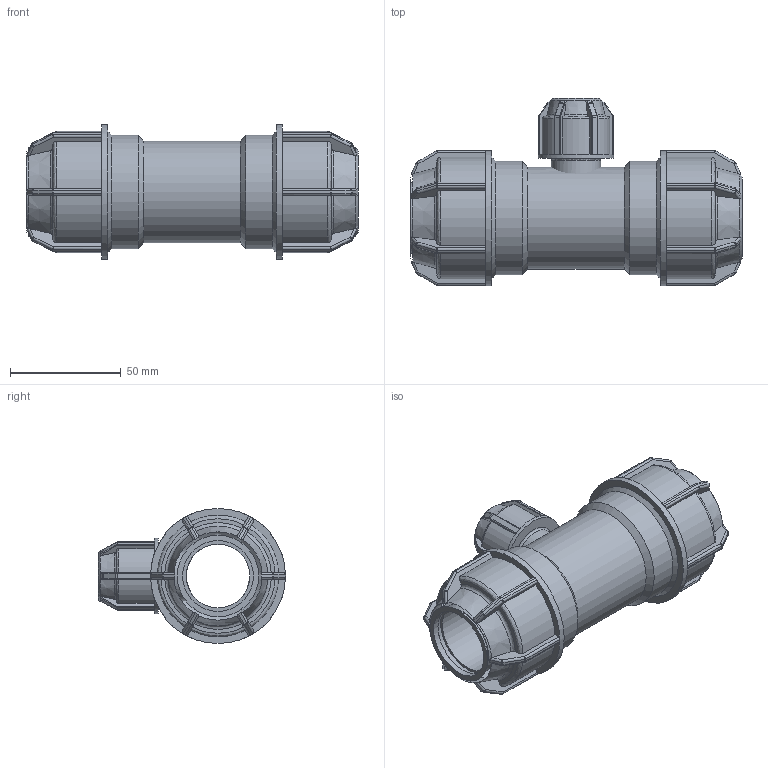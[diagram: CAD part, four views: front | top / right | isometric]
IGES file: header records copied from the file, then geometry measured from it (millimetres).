
Global section: file name: 143400032016.ipt; native system: Autodesk Inventor 2015; preprocessor: unknown; author: KIM; date: 20180409.131220; units: millimetre
Bounding box: 150 x 84.5 x 61 mm (x, y, z)
Volume: 202034.4 mm3; surface area: 53238.2 mm2
Topology: 2 solids, 2 shells, 601 faces, 1480 edges, 869 vertices
Faces by surface type: plane 290, cylinder 170, revolution 76, sphere 48, cone 17
Full cylindrical faces by diameter (mm): 13.6 x1, 22.4 x1, 34 x1, 46.08 x1, 51.2 x2, 61 x2
